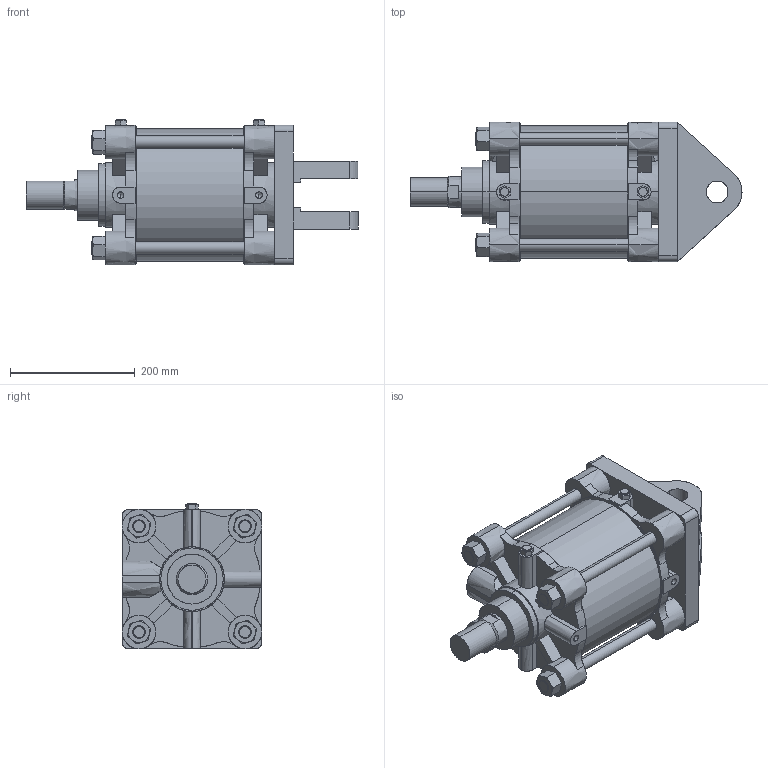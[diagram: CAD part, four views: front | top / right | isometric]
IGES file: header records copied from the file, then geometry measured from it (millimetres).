
Start section: SolidWorks IGES file using analytic representation for surfaces
Global section: file name: C:\Users\Toshiba\Desktop\A##2-200#-100-W.IGS; native system: SolidWorks 2014; preprocessor: SolidWorks 2014; author: Toshiba; date: 160331.150146; units: millimetre
Bounding box: 533 x 224 x 234 mm (x, y, z)
Surface area: 854667.1 mm2 (no closed solid volume)
Topology: 0 solids, 0 shells, 363 faces, 7144 edges, 7132 vertices
Faces by surface type: bspline 211, revolution 152
